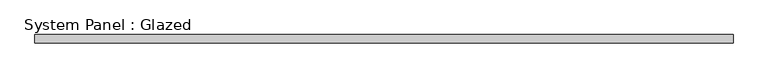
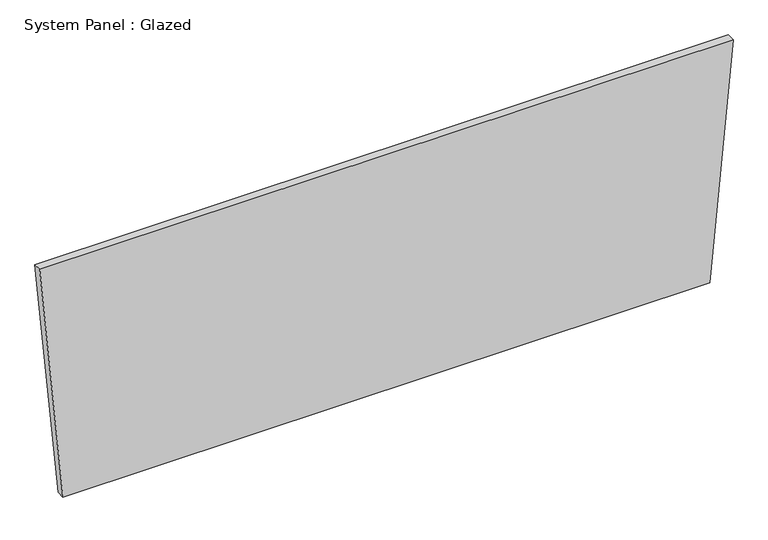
"""IFC4 building model written with IfcOpenShell, lengths in millimetres: plate geometry, System Panel : Glazed."""

from ifc_helpers import new_model, si_unit, frame, origin, place, context, project, spatial, polyline, outline, extrude, source, transform, mapped, element, save


def system_panel_glazed_c03609ab(model_context):
    return source(origin(), model_context, "Body", "SweptSolid", [
        extrude(outline(polyline([(0.0, -986.2569489), (0.0, 986.2569489), (758.7366017, 1056.7038738), (758.7366017, -1056.7038738), (0.0, -986.2569489)])), frame((0.0, -44.45, 0.0), z_axis=(0.0, 1.0, 0.0), x_axis=(0.0, 0.0, 1.0)), (0.0, 0.0, 1.0), 25.4),
    ])


if __name__ == "__main__":
    model = new_model("IFC4")
    model_context = context("Model", 3, world=origin())
    ifc_project = project(units=[si_unit("LENGTHUNIT", "METRE", prefix="MILLI")], contexts=[model_context])
    site = spatial("IfcSite", under=ifc_project)
    building = spatial("IfcBuilding", under=site)
    placement = place(None, origin())
    system_panel_glazed_shape = system_panel_glazed_c03609ab(model_context)
    element("IfcPlate", 1, ObjectType="System Panel : Glazed", at=placement, inside=building, context=model_context, shape_type="MappedRepresentation", body=[
        mapped(system_panel_glazed_shape, transform((0.0, 0.0, 0.0), x_axis=(1.0, 0.0, 0.0), y_axis=(0.0, 1.0, 0.0), z_axis=(0.0, 0.0, 1.0))),
    ])
    save(model, "model.ifc")
